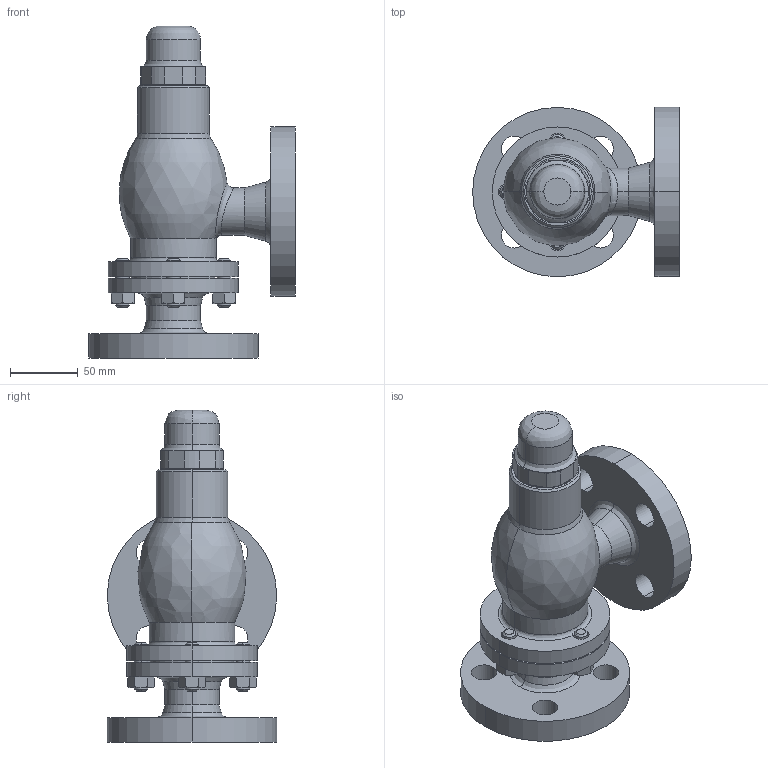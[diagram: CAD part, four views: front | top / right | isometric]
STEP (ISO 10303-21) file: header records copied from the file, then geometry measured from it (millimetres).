
FILE_DESCRIPTION( (''), '2;1');
FILE_NAME ('PC1029.10648.AL-300,301,300T,301T 25A_12918.stp','2024-12-13T15:38:56',(''),(''),'spGate 19.8.4 (****-****-****-****)','','');
FILE_SCHEMA (('AUTOMOTIVE_DESIGN'));
Length unit declared in the file: millimetre
Products named in the file (4): Assembly; ばね箱弁箱25A; スタッドボルト・ナット15-25A; AL-300 15-25Aキャップ
Assembly tree (6 placements, depth 2):
  Assembly
    ばね箱弁箱25A
    スタッドボルト・ナット15-25A  x4
    AL-300 15-25Aキャップ
Bounding box: 152.5 x 125 x 245 mm (x, y, z)
Volume: 1150135.1 mm3; surface area: 145261.6 mm2
Topology: 6 solids, 6 shells, 198 faces, 471 edges, 298 vertices
Faces by surface type: cylinder 80, plane 68, bspline 50
Entity records: 7917 total; most frequent: CARTESIAN_POINT 1976, ORIENTED_EDGE 678, DIRECTION 646, COLOUR_RGB 480, PRESENTATION_STYLE_ASSIGNMENT 480, STYLED_ITEM 480, EDGE_CURVE 339, DRAUGHTING_PRE_DEFINED_CURVE_FONT 339
